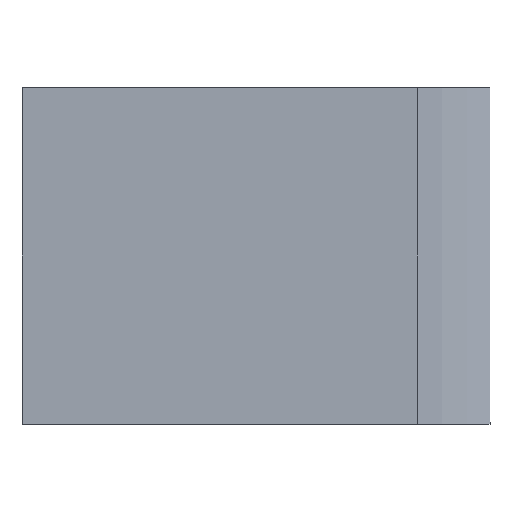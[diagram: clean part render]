
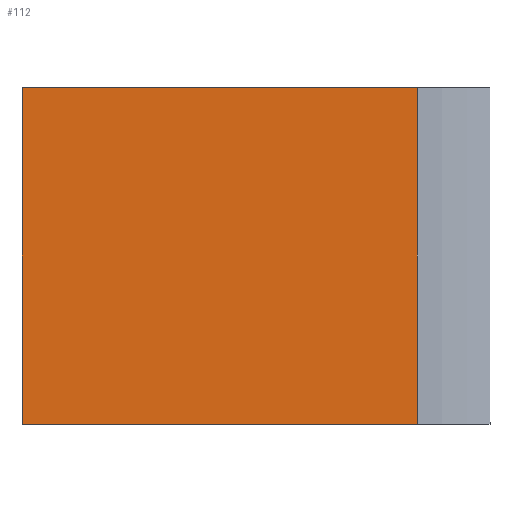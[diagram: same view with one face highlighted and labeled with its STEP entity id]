
A CAD part, left-side view. The second image highlights one B-rep face of the part: STEP entity #112.
In plain terms, the highlighted planar face has unit normal (-1, 0, 0).
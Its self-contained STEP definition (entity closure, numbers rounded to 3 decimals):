
#112=ADVANCED_FACE('',(#426),#428,.T.);
#426=FACE_BOUND('',#427,.T.);
#427=EDGE_LOOP('',(#688,#689,#690,#691));
#428=PLANE('',#429);
#429=AXIS2_PLACEMENT_3D('',#430,#431,#432);
#430=CARTESIAN_POINT('',(-297.,112.617,0.));
#431=DIRECTION('',(-1.,0.,0.));
#432=DIRECTION('',(0.,-1.,0.));
#688=ORIENTED_EDGE('',*,*,#843,.T.);
#689=ORIENTED_EDGE('',*,*,#879,.T.);
#690=ORIENTED_EDGE('',*,*,#882,.T.);
#691=ORIENTED_EDGE('',*,*,#883,.F.);
#843=EDGE_CURVE('',#947,#944,#948,.F.);
#879=EDGE_CURVE('',#944,#1012,#1014,.T.);
#882=EDGE_CURVE('',#1012,#1018,#1019,.T.);
#883=EDGE_CURVE('',#947,#1018,#1020,.T.);
#944=VERTEX_POINT('',#1114);
#947=VERTEX_POINT('',#1119);
#948=LINE('',#1120,#1121);
#1012=VERTEX_POINT('',#1254);
#1014=LINE('',#1259,#1260);
#1018=VERTEX_POINT('',#1270);
#1019=LINE('',#1271,#1272);
#1020=LINE('',#1274,#1275);
#1114=CARTESIAN_POINT('',(-297.,0.,0.));
#1119=CARTESIAN_POINT('',(-297.,0.,96.));
#1120=CARTESIAN_POINT('',(-297.,0.,0.));
#1121=VECTOR('',#1122,1.);
#1122=DIRECTION('',(0.,0.,1.));
#1254=CARTESIAN_POINT('',(-297.,-112.617,0.));
#1259=CARTESIAN_POINT('',(-297.,0.,0.));
#1260=VECTOR('',#1261,1.);
#1261=DIRECTION('',(0.,-1.,0.));
#1270=CARTESIAN_POINT('',(-297.,-112.617,96.));
#1271=CARTESIAN_POINT('',(-297.,-112.617,0.));
#1272=VECTOR('',#1273,1.);
#1273=DIRECTION('',(0.,0.,1.));
#1274=CARTESIAN_POINT('',(-297.,0.,96.));
#1275=VECTOR('',#1276,1.);
#1276=DIRECTION('',(0.,-1.,0.));
